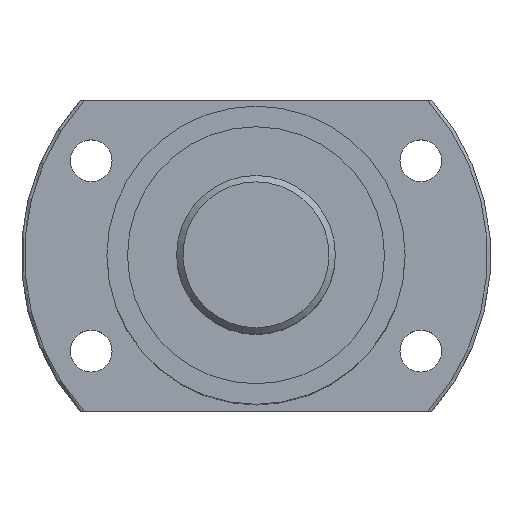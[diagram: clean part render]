
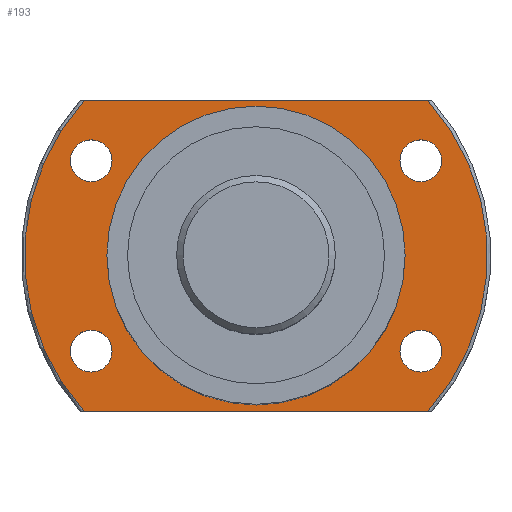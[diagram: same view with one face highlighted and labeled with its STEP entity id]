
A CAD part, top view. The second image highlights one B-rep face of the part: STEP entity #193.
In plain terms, the highlighted planar face has unit normal (0, 0, 1) as drawn and (1, 0, 0) by its records, which use the part's own axes.
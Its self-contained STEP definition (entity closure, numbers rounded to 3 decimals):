
#121=LINE('',#1192,#129);
#122=LINE('',#1196,#130);
#129=VECTOR('',#993,1.);
#130=VECTOR('',#996,1.);
#193=ADVANCED_FACE('',(#297,#298,#299,#300,#301,#302),#232,.F.);
#232=PLANE('',#827);
#297=FACE_BOUND('',#389,.T.);
#298=FACE_BOUND('',#390,.T.);
#299=FACE_BOUND('',#391,.T.);
#300=FACE_BOUND('',#392,.T.);
#301=FACE_BOUND('',#393,.T.);
#302=FACE_BOUND('',#394,.T.);
#389=EDGE_LOOP('',(#494,#495,#496,#497));
#390=EDGE_LOOP('',(#498));
#391=EDGE_LOOP('',(#499));
#392=EDGE_LOOP('',(#500));
#393=EDGE_LOOP('',(#501));
#394=EDGE_LOOP('',(#502));
#494=ORIENTED_EDGE('',*,*,#671,.T.);
#495=ORIENTED_EDGE('',*,*,#672,.T.);
#496=ORIENTED_EDGE('',*,*,#673,.T.);
#497=ORIENTED_EDGE('',*,*,#674,.F.);
#498=ORIENTED_EDGE('',*,*,#675,.T.);
#499=ORIENTED_EDGE('',*,*,#676,.T.);
#500=ORIENTED_EDGE('',*,*,#677,.T.);
#501=ORIENTED_EDGE('',*,*,#678,.T.);
#502=ORIENTED_EDGE('',*,*,#658,.F.);
#596=VERTEX_POINT('',#1158);
#609=VERTEX_POINT('',#1190);
#610=VERTEX_POINT('',#1191);
#611=VERTEX_POINT('',#1193);
#612=VERTEX_POINT('',#1195);
#613=VERTEX_POINT('',#1198);
#614=VERTEX_POINT('',#1200);
#615=VERTEX_POINT('',#1202);
#616=VERTEX_POINT('',#1204);
#658=EDGE_CURVE('',#596,#596,#728,.T.);
#671=EDGE_CURVE('',#609,#610,#739,.T.);
#672=EDGE_CURVE('',#610,#611,#121,.T.);
#673=EDGE_CURVE('',#611,#612,#740,.T.);
#674=EDGE_CURVE('',#609,#612,#122,.T.);
#675=EDGE_CURVE('',#613,#613,#741,.T.);
#676=EDGE_CURVE('',#614,#614,#742,.T.);
#677=EDGE_CURVE('',#615,#615,#743,.T.);
#678=EDGE_CURVE('',#616,#616,#744,.T.);
#728=CIRCLE('',#804,23.5);
#739=CIRCLE('',#821,36.5);
#740=CIRCLE('',#822,36.5);
#741=CIRCLE('',#823,3.3);
#742=CIRCLE('',#824,3.3);
#743=CIRCLE('',#825,3.3);
#744=CIRCLE('',#826,3.3);
#804=AXIS2_PLACEMENT_3D('',#1157,#955,#956);
#821=AXIS2_PLACEMENT_3D('',#1189,#991,#992);
#822=AXIS2_PLACEMENT_3D('',#1194,#994,#995);
#823=AXIS2_PLACEMENT_3D('',#1197,#997,#998);
#824=AXIS2_PLACEMENT_3D('',#1199,#999,#1000);
#825=AXIS2_PLACEMENT_3D('',#1201,#1001,#1002);
#826=AXIS2_PLACEMENT_3D('',#1203,#1003,#1004);
#827=AXIS2_PLACEMENT_3D('',#1205,#1005,#1006);
#955=DIRECTION('',(1.,0.,0.));
#956=DIRECTION('',(0.,-1.,0.));
#991=DIRECTION('',(1.,0.,0.));
#992=DIRECTION('',(0.,1.,0.));
#993=DIRECTION('',(0.,0.,1.));
#994=DIRECTION('',(1.,0.,0.));
#995=DIRECTION('',(0.,1.,0.));
#996=DIRECTION('',(0.,0.,1.));
#997=DIRECTION('',(-1.,0.,0.));
#998=DIRECTION('',(0.,-1.,0.));
#999=DIRECTION('',(-1.,0.,0.));
#1000=DIRECTION('',(0.,-1.,0.));
#1001=DIRECTION('',(-1.,0.,0.));
#1002=DIRECTION('',(0.,-1.,0.));
#1003=DIRECTION('',(-1.,0.,0.));
#1004=DIRECTION('',(0.,-1.,0.));
#1005=DIRECTION('',(-1.,0.,0.));
#1006=DIRECTION('',(0.,-1.,0.));
#1157=CARTESIAN_POINT('',(-77.,0.,0.));
#1158=CARTESIAN_POINT('',(-77.,-23.5,0.));
#1189=CARTESIAN_POINT('',(-77.,0.,0.));
#1190=CARTESIAN_POINT('',(-77.,-24.5,-27.055));
#1191=CARTESIAN_POINT('',(-77.,24.5,-27.055));
#1192=CARTESIAN_POINT('',(-77.,24.5,-48.057));
#1193=CARTESIAN_POINT('',(-77.,24.5,27.055));
#1194=CARTESIAN_POINT('',(-77.,0.,0.));
#1195=CARTESIAN_POINT('',(-77.,-24.5,27.055));
#1196=CARTESIAN_POINT('',(-77.,-24.5,-48.057));
#1197=CARTESIAN_POINT('',(-77.,15.,-25.98));
#1198=CARTESIAN_POINT('',(-77.,11.7,-25.98));
#1199=CARTESIAN_POINT('',(-77.,-15.,-25.98));
#1200=CARTESIAN_POINT('',(-77.,-18.3,-25.98));
#1201=CARTESIAN_POINT('',(-77.,-15.,25.98));
#1202=CARTESIAN_POINT('',(-77.,-18.3,25.98));
#1203=CARTESIAN_POINT('',(-77.,15.,25.98));
#1204=CARTESIAN_POINT('',(-77.,11.7,25.98));
#1205=CARTESIAN_POINT('',(-77.,36.5,0.));
